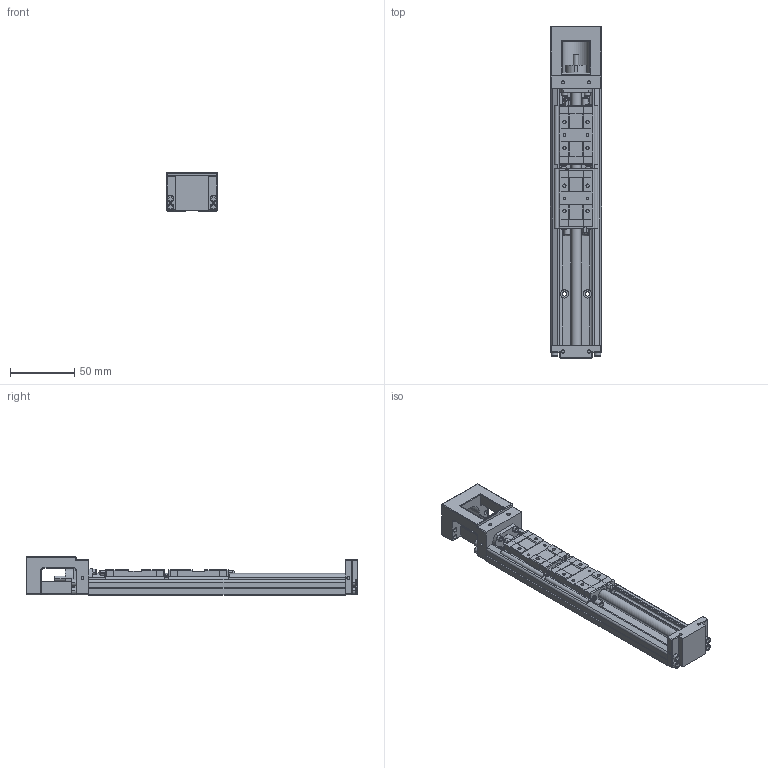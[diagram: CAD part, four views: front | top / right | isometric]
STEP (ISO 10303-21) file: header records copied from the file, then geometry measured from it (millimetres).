
FILE_DESCRIPTION(('no description'),'unknown implementation level');
FILE_NAME('KK4001P200A2F0000_FILE_8.stp',' ',('HIWIN GmbH'),('CADClick - KiM GmbH - www.kimweb.de'),'unknown preprocess','ACIS','unknown authorization');
FILE_SCHEMA(('automotive_design'));
Length unit declared in the file: millimetre
Products named in the file (3): KK4001P200A2F0000_FILE_1; KK40_FILE; KK4001P200A2F0000_FILE
Bounding box: 40 x 259 x 30 mm (x, y, z)
Volume: 136364.2 mm3; surface area: 61093.4 mm2
Topology: 3 solids, 19 shells, 1128 faces, 2894 edges, 1854 vertices
Faces by surface type: plane 704, cylinder 360, torus 56, sphere 8
Entity records: 67966 total; most frequent: CARTESIAN_POINT 6983, DIRECTION 6002, STYLED_ITEM 5875, PRESENTATION_STYLE_ASSIGNMENT 5875, COLOUR_RGB 5875, ORIENTED_EDGE 5780, EDGE_CURVE 2890, CURVE_STYLE 2890
